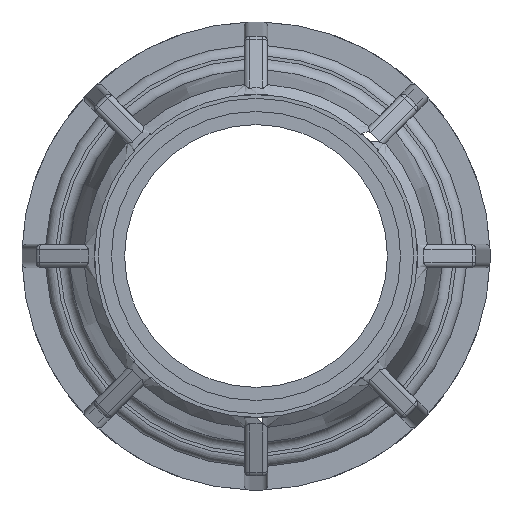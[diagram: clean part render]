
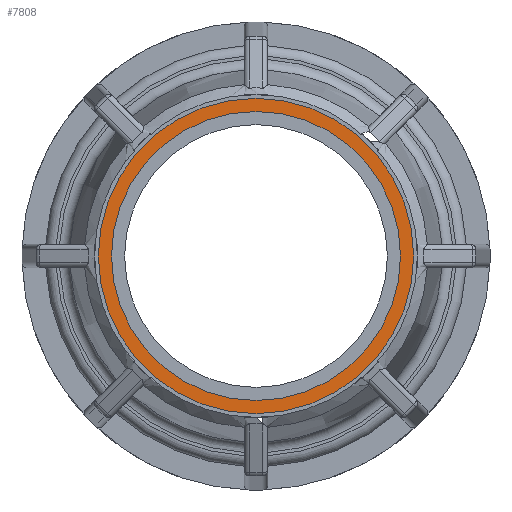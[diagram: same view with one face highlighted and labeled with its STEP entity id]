
A CAD part, left-side view. The second image highlights one B-rep face of the part: STEP entity #7808.
In plain terms, the highlighted planar face has unit normal (-1, 0, 0).
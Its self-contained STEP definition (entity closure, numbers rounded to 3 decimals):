
#1469=PLANE('',#8532);
#1606=FACE_BOUND('',#2412,.T.);
#1880=FACE_OUTER_BOUND('',#2411,.T.);
#2411=EDGE_LOOP('',(#6197));
#2412=EDGE_LOOP('',(#6198));
#2908=CIRCLE('',#8531,19.2);
#2909=CIRCLE('',#8533,17.6);
#3474=VERTEX_POINT('',#13837);
#3475=VERTEX_POINT('',#13840);
#4416=EDGE_CURVE('',#3474,#3474,#2908,.T.);
#4417=EDGE_CURVE('',#3475,#3475,#2909,.T.);
#6197=ORIENTED_EDGE('',*,*,#4416,.T.);
#6198=ORIENTED_EDGE('',*,*,#4417,.F.);
#7808=ADVANCED_FACE('',(#1880,#1606),#1469,.T.);
#8531=AXIS2_PLACEMENT_3D('',#13838,#10157,#10158);
#8532=AXIS2_PLACEMENT_3D('',#13839,#10159,#10160);
#8533=AXIS2_PLACEMENT_3D('',#13841,#10161,#10162);
#10157=DIRECTION('center_axis',(-1.,0.,0.));
#10158=DIRECTION('ref_axis',(0.,0.,-1.));
#10159=DIRECTION('center_axis',(-1.,0.,0.));
#10160=DIRECTION('ref_axis',(0.,0.,-1.));
#10161=DIRECTION('center_axis',(-1.,0.,0.));
#10162=DIRECTION('ref_axis',(0.,0.,-1.));
#13837=CARTESIAN_POINT('',(-51.7,-19.2,0.));
#13838=CARTESIAN_POINT('Origin',(-51.7,0.,0.));
#13839=CARTESIAN_POINT('Origin',(-51.7,-17.6,0.));
#13840=CARTESIAN_POINT('',(-51.7,-17.6,0.));
#13841=CARTESIAN_POINT('Origin',(-51.7,0.,0.));
